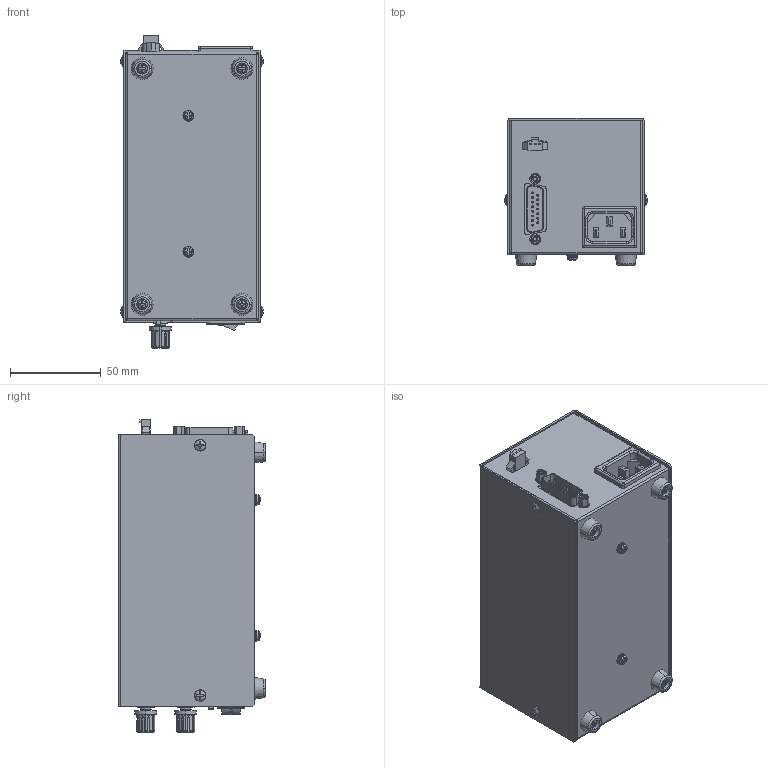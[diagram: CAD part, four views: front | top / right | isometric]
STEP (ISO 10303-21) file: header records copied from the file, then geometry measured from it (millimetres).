
FILE_DESCRIPTION (( 'STEP AP203' ), '1' );
FILE_NAME ('MLEP-B070W1LRD_A09668A0000101A-0011.STEP', '2016-04-07T06:39:15', ( '' ), ( '' ), 'SwSTEP 2.0', 'SolidWorks 2014', '' );
FILE_SCHEMA (( 'CONFIG_CONTROL_DESIGN' ));
Length unit declared in the file: millimetre
Products named in the file (1): MLEP-B070W1LRD_A09668A0000101A-0011
Bounding box: 78.67 x 81 x 172.5 mm (x, y, z)
Volume: 806442.8 mm3; surface area: 107730.1 mm2
Topology: 1 solids, 18 shells, 1061 faces, 2777 edges, 1769 vertices
Faces by surface type: plane 553, cylinder 303, bspline 125, cone 80
Entity records: 38856 total; most frequent: CARTESIAN_POINT 13659, ORIENTED_EDGE 5430, DIRECTION 4943, EDGE_CURVE 2715, VERTEX_POINT 1769, AXIS2_PLACEMENT_3D 1745, LINE 1453, VECTOR 1453
